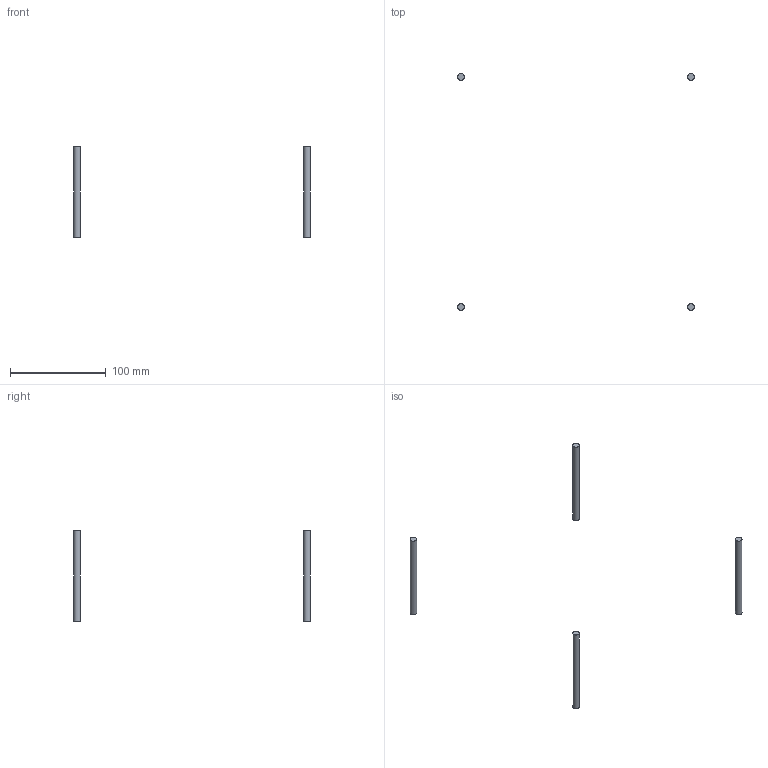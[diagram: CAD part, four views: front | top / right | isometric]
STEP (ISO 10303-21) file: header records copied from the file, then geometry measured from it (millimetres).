
FILE_DESCRIPTION(('Open CASCADE Model'),'2;1');
FILE_NAME('Open CASCADE Shape Model','2026-10-10T15:34:57',('Author'),( 'Open CASCADE'),'Open CASCADE STEP processor 7.9','Open CASCADE 7.9' ,'Unknown');
FILE_SCHEMA(('AUTOMOTIVE_DESIGN { 1 0 10303 214 1 1 1 1 }'));
Length unit declared in the file: millimetre
Products named in the file (5): Open CASCADE STEP translator 7.9 5; Open CASCADE STEP translator 7.9 5.1; Open CASCADE STEP translator 7.9 5.2; Open CASCADE STEP translator 7.9 5.3; Open CASCADE STEP translator 7.9 5.4
Assembly tree (4 placements, depth 2):
  Open CASCADE STEP translator 7.9 5
    Open CASCADE STEP translator 7.9 5.1
    Open CASCADE STEP translator 7.9 5.2
    Open CASCADE STEP translator 7.9 5.3
    Open CASCADE STEP translator 7.9 5.4
Bounding box: 247 x 247 x 94 mm (x, y, z)
Volume: 14470.2 mm3; surface area: 8576.5 mm2
Topology: 4 solids, 4 shells, 12 faces, 12 edges, 8 vertices
Faces by surface type: plane 8, cylinder 4
Full cylindrical faces by diameter (mm): 7 x4
Entity records: 456 total; most frequent: DIRECTION 78, CARTESIAN_POINT 61, AXIS2_PLACEMENT_3D 25, ORIENTED_EDGE 24, PCURVE 24, DEFINITIONAL_REPRESENTATION 24, LINE 20, VECTOR 20
